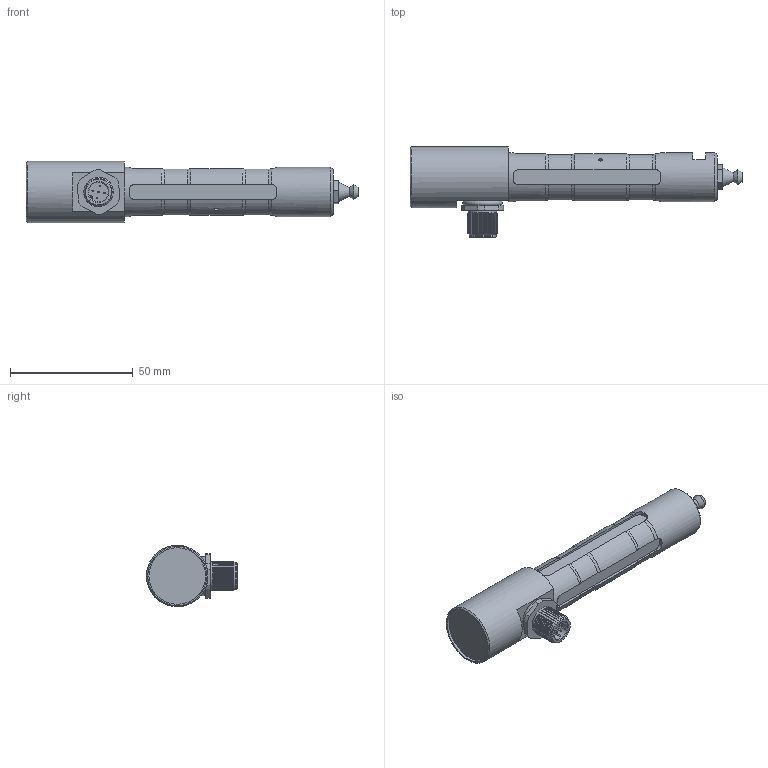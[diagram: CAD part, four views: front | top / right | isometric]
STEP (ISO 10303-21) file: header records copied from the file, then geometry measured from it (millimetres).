
FILE_DESCRIPTION(/* description */ ('Alibre Inc.'),/* implementation_level */ '2;1');
FILE_NAME(/* name */ 'export-8DB23411-056B-4E05-8969-26C54A035534',/* time_stamp */ '2023-01-17T09:03:23+01:00',/* author */ (''),/* organization */ (''),/* preprocessor_version */ 'ST-DEVELOPER v17',/* originating_system */ 'Alibre',/* authorisation */ '');
FILE_SCHEMA (('CONFIG_CONTROL_DESIGN'));
Length unit declared in the file: millimetre
Bounding box: 135 x 37 x 25 mm (x, y, z)
Surface area: 165113.4 mm2
Topology: 8 solids, 9 shells, 321 faces, 770 edges, 476 vertices
Faces by surface type: plane 123, cylinder 104, cone 76, torus 18
Full cylindrical faces by diameter (mm): 0.5 x10, 1.5 x3, 4 x1, 7 x1, 8 x3, 10 x1, 11 x1, 11.5 x1, 12 x21, 13 x2, 14.5 x1, 20 x2, 23 x1, 25 x1
Entity records: 8680 total; most frequent: CARTESIAN_POINT 2052, ORIENTED_EDGE 1296, DIRECTION 1079, EDGE_CURVE 642, VERTEX_POINT 455, AXIS2_PLACEMENT_3D 454, FACE_BOUND 451, EDGE_LOOP 450
